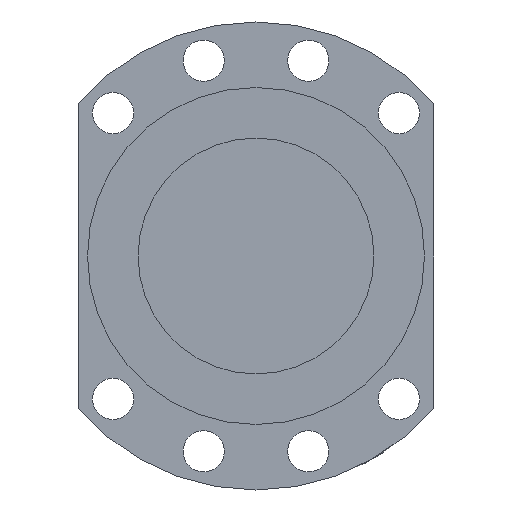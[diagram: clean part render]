
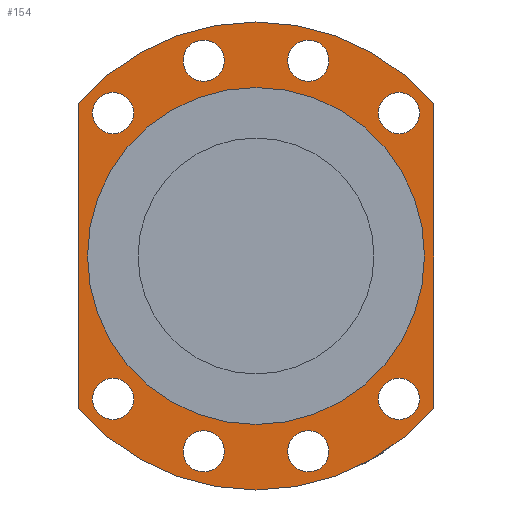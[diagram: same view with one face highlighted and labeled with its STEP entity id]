
A CAD part, front view. The second image highlights one B-rep face of the part: STEP entity #154.
In plain terms, the highlighted planar face has unit normal (0, -1, 0).
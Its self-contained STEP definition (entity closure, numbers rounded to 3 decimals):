
#98=LINE('',#908,#106);
#102=LINE('',#979,#110);
#106=VECTOR('',#702,1.);
#110=VECTOR('',#714,1.);
#130=PLANE('',#627);
#154=ADVANCED_FACE('',(#221,#222,#223,#224,#225,#226,#227,#228,#229,#230),
#130,.F.);
#221=FACE_BOUND('',#301,.T.);
#222=FACE_BOUND('',#302,.T.);
#223=FACE_BOUND('',#303,.T.);
#224=FACE_BOUND('',#304,.T.);
#225=FACE_BOUND('',#305,.T.);
#226=FACE_BOUND('',#306,.T.);
#227=FACE_BOUND('',#307,.T.);
#228=FACE_BOUND('',#308,.T.);
#229=FACE_BOUND('',#309,.T.);
#230=FACE_BOUND('',#310,.T.);
#301=EDGE_LOOP('',(#396));
#302=EDGE_LOOP('',(#397));
#303=EDGE_LOOP('',(#398));
#304=EDGE_LOOP('',(#399));
#305=EDGE_LOOP('',(#400));
#306=EDGE_LOOP('',(#401));
#307=EDGE_LOOP('',(#402));
#308=EDGE_LOOP('',(#403));
#309=EDGE_LOOP('',(#404));
#310=EDGE_LOOP('',(#405,#406,#407,#408));
#396=ORIENTED_EDGE('',*,*,#525,.F.);
#397=ORIENTED_EDGE('',*,*,#526,.F.);
#398=ORIENTED_EDGE('',*,*,#527,.F.);
#399=ORIENTED_EDGE('',*,*,#528,.F.);
#400=ORIENTED_EDGE('',*,*,#529,.T.);
#401=ORIENTED_EDGE('',*,*,#530,.T.);
#402=ORIENTED_EDGE('',*,*,#531,.T.);
#403=ORIENTED_EDGE('',*,*,#532,.T.);
#404=ORIENTED_EDGE('',*,*,#533,.T.);
#405=ORIENTED_EDGE('',*,*,#503,.F.);
#406=ORIENTED_EDGE('',*,*,#514,.F.);
#407=ORIENTED_EDGE('',*,*,#511,.F.);
#408=ORIENTED_EDGE('',*,*,#507,.F.);
#458=VERTEX_POINT('',#900);
#459=VERTEX_POINT('',#901);
#462=VERTEX_POINT('',#909);
#465=VERTEX_POINT('',#974);
#476=VERTEX_POINT('',#1002);
#477=VERTEX_POINT('',#1004);
#478=VERTEX_POINT('',#1006);
#479=VERTEX_POINT('',#1008);
#480=VERTEX_POINT('',#1010);
#481=VERTEX_POINT('',#1012);
#482=VERTEX_POINT('',#1014);
#483=VERTEX_POINT('',#1016);
#484=VERTEX_POINT('',#1018);
#503=EDGE_CURVE('',#458,#459,#551,.T.);
#507=EDGE_CURVE('',#459,#462,#98,.T.);
#511=EDGE_CURVE('',#462,#465,#553,.T.);
#514=EDGE_CURVE('',#465,#458,#102,.T.);
#525=EDGE_CURVE('',#476,#476,#564,.T.);
#526=EDGE_CURVE('',#477,#477,#565,.T.);
#527=EDGE_CURVE('',#478,#478,#566,.T.);
#528=EDGE_CURVE('',#479,#479,#567,.T.);
#529=EDGE_CURVE('',#480,#480,#568,.T.);
#530=EDGE_CURVE('',#481,#481,#569,.T.);
#531=EDGE_CURVE('',#482,#482,#570,.T.);
#532=EDGE_CURVE('',#483,#483,#571,.T.);
#533=EDGE_CURVE('',#484,#484,#572,.T.);
#551=CIRCLE('',#600,62.5);
#553=CIRCLE('',#604,62.5);
#564=CIRCLE('',#618,5.5);
#565=CIRCLE('',#619,5.5);
#566=CIRCLE('',#620,5.5);
#567=CIRCLE('',#621,5.5);
#568=CIRCLE('',#622,5.5);
#569=CIRCLE('',#623,5.5);
#570=CIRCLE('',#624,5.5);
#571=CIRCLE('',#625,5.5);
#572=CIRCLE('',#626,45.);
#600=AXIS2_PLACEMENT_3D('',#899,#694,#695);
#604=AXIS2_PLACEMENT_3D('',#973,#707,#708);
#618=AXIS2_PLACEMENT_3D('',#1001,#738,#739);
#619=AXIS2_PLACEMENT_3D('',#1003,#740,#741);
#620=AXIS2_PLACEMENT_3D('',#1005,#742,#743);
#621=AXIS2_PLACEMENT_3D('',#1007,#744,#745);
#622=AXIS2_PLACEMENT_3D('',#1009,#746,#747);
#623=AXIS2_PLACEMENT_3D('',#1011,#748,#749);
#624=AXIS2_PLACEMENT_3D('',#1013,#750,#751);
#625=AXIS2_PLACEMENT_3D('',#1015,#752,#753);
#626=AXIS2_PLACEMENT_3D('',#1017,#754,#755);
#627=AXIS2_PLACEMENT_3D('',#1019,#756,#757);
#694=DIRECTION('',(0.,1.,0.));
#695=DIRECTION('',(1.,0.,0.));
#702=DIRECTION('',(0.,0.,-1.));
#707=DIRECTION('',(0.,1.,0.));
#708=DIRECTION('',(1.,0.,0.));
#714=DIRECTION('',(0.,0.,1.));
#738=DIRECTION('',(0.,-1.,0.));
#739=DIRECTION('',(-1.,0.,0.));
#740=DIRECTION('',(0.,-1.,0.));
#741=DIRECTION('',(-0.866,0.,-0.5));
#742=DIRECTION('',(0.,-1.,0.));
#743=DIRECTION('',(-0.5,0.,-0.866));
#744=DIRECTION('',(0.,-1.,0.));
#745=DIRECTION('',(0.,0.,-1.));
#746=DIRECTION('',(0.,1.,0.));
#747=DIRECTION('',(-1.,0.,0.));
#748=DIRECTION('',(0.,1.,0.));
#749=DIRECTION('',(-0.866,0.,0.5));
#750=DIRECTION('',(0.,1.,0.));
#751=DIRECTION('',(-0.5,0.,0.866));
#752=DIRECTION('',(0.,1.,0.));
#753=DIRECTION('',(0.,0.,1.));
#754=DIRECTION('',(0.,1.,0.));
#755=DIRECTION('',(1.,0.,0.));
#756=DIRECTION('',(0.,1.,0.));
#757=DIRECTION('',(0.,0.,1.));
#899=CARTESIAN_POINT('',(0.,-46.5,0.));
#900=CARTESIAN_POINT('',(-47.5,-46.5,40.62));
#901=CARTESIAN_POINT('',(47.5,-46.5,40.62));
#908=CARTESIAN_POINT('',(47.5,-46.5,40.62));
#909=CARTESIAN_POINT('',(47.5,-46.5,-40.62));
#973=CARTESIAN_POINT('',(0.,-46.5,0.));
#974=CARTESIAN_POINT('',(-47.5,-46.5,-40.62));
#979=CARTESIAN_POINT('',(-47.5,-46.5,-40.62));
#1001=CARTESIAN_POINT('',(38.184,-46.5,38.184));
#1002=CARTESIAN_POINT('',(32.684,-46.5,38.184));
#1003=CARTESIAN_POINT('',(13.976,-46.5,52.16));
#1004=CARTESIAN_POINT('',(9.213,-46.5,49.41));
#1005=CARTESIAN_POINT('',(-13.976,-46.5,52.16));
#1006=CARTESIAN_POINT('',(-16.726,-46.5,47.397));
#1007=CARTESIAN_POINT('',(-38.184,-46.5,38.184));
#1008=CARTESIAN_POINT('',(-38.184,-46.5,32.684));
#1009=CARTESIAN_POINT('',(38.184,-46.5,-38.184));
#1010=CARTESIAN_POINT('',(32.684,-46.5,-38.184));
#1011=CARTESIAN_POINT('',(13.976,-46.5,-52.16));
#1012=CARTESIAN_POINT('',(9.213,-46.5,-49.41));
#1013=CARTESIAN_POINT('',(-13.976,-46.5,-52.16));
#1014=CARTESIAN_POINT('',(-16.726,-46.5,-47.397));
#1015=CARTESIAN_POINT('',(-38.184,-46.5,-38.184));
#1016=CARTESIAN_POINT('',(-38.184,-46.5,-32.684));
#1017=CARTESIAN_POINT('',(0.,-46.5,0.));
#1018=CARTESIAN_POINT('',(45.,-46.5,0.));
#1019=CARTESIAN_POINT('',(0.,-46.5,0.));
